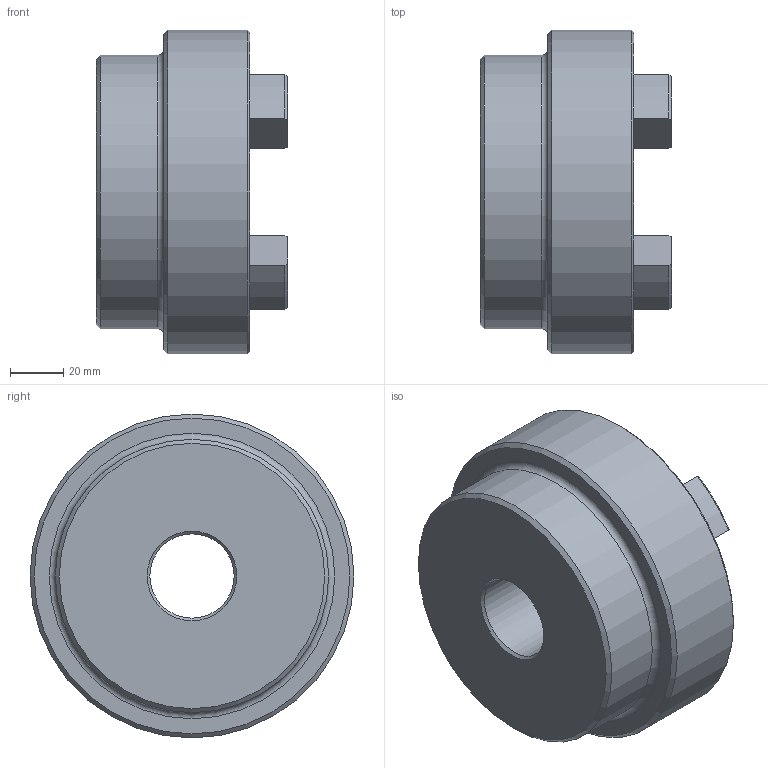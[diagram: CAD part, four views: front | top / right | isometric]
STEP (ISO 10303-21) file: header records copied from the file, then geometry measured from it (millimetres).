
FILE_DESCRIPTION (( 'STEP AP203' ), '1' );
FILE_NAME ('RC5.step', '2024-07-25T13:23:23', ( 'Adlan' ), ( '' ), 'SwSTEP 2.0', 'SolidWorks 2013', '' );
FILE_SCHEMA (( 'CONFIG_CONTROL_DESIGN' ));
Length unit declared in the file: inch
Products named in the file (1): RC5
Bounding box: 72.14 x 122.17 x 122.17 mm (x, y, z)
Volume: 446930.7 mm3; surface area: 58251.5 mm2
Topology: 1 solids, 1 shells, 76 faces, 189 edges, 117 vertices
Faces by surface type: cylinder 31, torus 17, plane 16, cone 12
Full cylindrical faces by diameter (mm): 31.763 x1, 103.124 x1, 122.174 x1
Entity records: 2349 total; most frequent: CARTESIAN_POINT 443, DIRECTION 416, ORIENTED_EDGE 358, EDGE_CURVE 179, AXIS2_PLACEMENT_3D 168, VERTEX_POINT 115, CIRCLE 91, EDGE_LOOP 88
